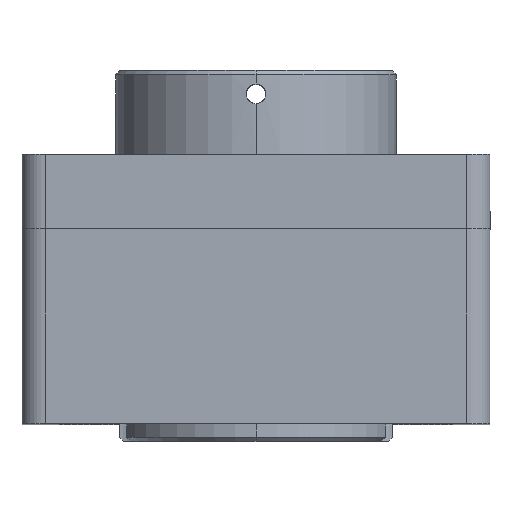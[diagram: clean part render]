
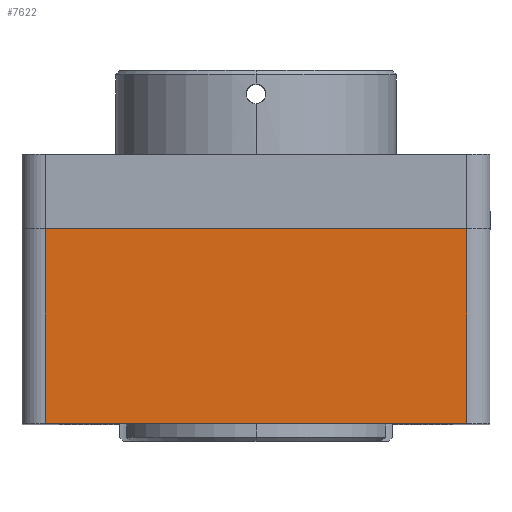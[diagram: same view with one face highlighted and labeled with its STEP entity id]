
A CAD part, top view. The second image highlights one B-rep face of the part: STEP entity #7622.
In plain terms, the highlighted planar face has unit normal (0, 0, 1).
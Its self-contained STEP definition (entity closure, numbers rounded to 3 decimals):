
#120 = EDGE_CURVE ( 'NONE', #8422, #7849, #395, .T. ) ;
#230 = EDGE_CURVE ( 'NONE', #7849, #10957, #20408, .T. ) ;
#395 = LINE ( 'NONE', #13288, #18326 ) ;
#2327 = DIRECTION ( 'NONE',  ( 0., -1., 0. ) ) ;
#2999 = ORIENTED_EDGE ( 'NONE', *, *, #5494, .F. ) ;
#3663 = DIRECTION ( 'NONE',  ( -1., 0., 0. ) ) ;
#3991 = VECTOR ( 'NONE', #13964, 1000. ) ;
#4215 = CARTESIAN_POINT ( 'NONE',  ( 11.989, 47.018, 90.174 ) ) ;
#4522 = VERTEX_POINT ( 'NONE', #8651 ) ;
#4555 = LINE ( 'NONE', #11961, #21602 ) ;
#4600 = AXIS2_PLACEMENT_3D ( 'NONE', #4215, #6300, #6387 ) ;
#5494 = EDGE_CURVE ( 'NONE', #8422, #4522, #4555, .T. ) ;
#6300 = DIRECTION ( 'NONE',  ( 0., 0., 1. ) ) ;
#6387 = DIRECTION ( 'NONE',  ( 1., 0., 0. ) ) ;
#7622 = ADVANCED_FACE ( 'NONE', ( #20057 ), #23024, .T. ) ;
#7849 = VERTEX_POINT ( 'NONE', #12448 ) ;
#7853 = LINE ( 'NONE', #20129, #3991 ) ;
#8237 = ORIENTED_EDGE ( 'NONE', *, *, #230, .T. ) ;
#8422 = VERTEX_POINT ( 'NONE', #12744 ) ;
#8651 = CARTESIAN_POINT ( 'NONE',  ( 68.989, 47.018, 90.174 ) ) ;
#10428 = ORIENTED_EDGE ( 'NONE', *, *, #24036, .T. ) ;
#10957 = VERTEX_POINT ( 'NONE', #14499 ) ;
#11961 = CARTESIAN_POINT ( 'NONE',  ( 68.989, 47.018, 90.174 ) ) ;
#12448 = CARTESIAN_POINT ( 'NONE',  ( 14.989, 72.018, 90.174 ) ) ;
#12744 = CARTESIAN_POINT ( 'NONE',  ( 68.989, 72.018, 90.174 ) ) ;
#13288 = CARTESIAN_POINT ( 'NONE',  ( 11.989, 72.018, 90.174 ) ) ;
#13964 = DIRECTION ( 'NONE',  ( 1., 0., 0. ) ) ;
#14499 = CARTESIAN_POINT ( 'NONE',  ( 14.989, 47.018, 90.174 ) ) ;
#15096 = VECTOR ( 'NONE', #21243, 1000. ) ;
#15954 = EDGE_LOOP ( 'NONE', ( #10428, #2999, #20004, #8237 ) ) ;
#18326 = VECTOR ( 'NONE', #3663, 1000. ) ;
#20004 = ORIENTED_EDGE ( 'NONE', *, *, #120, .T. ) ;
#20057 = FACE_OUTER_BOUND ( 'NONE', #15954, .T. ) ;
#20129 = CARTESIAN_POINT ( 'NONE',  ( 71.989, 47.018, 90.174 ) ) ;
#20408 = LINE ( 'NONE', #22958, #15096 ) ;
#21243 = DIRECTION ( 'NONE',  ( 0., -1., 0. ) ) ;
#21602 = VECTOR ( 'NONE', #2327, 1000. ) ;
#22958 = CARTESIAN_POINT ( 'NONE',  ( 14.989, 47.018, 90.174 ) ) ;
#23024 = PLANE ( 'NONE',  #4600 ) ;
#24036 = EDGE_CURVE ( 'NONE', #10957, #4522, #7853, .T. ) ;
